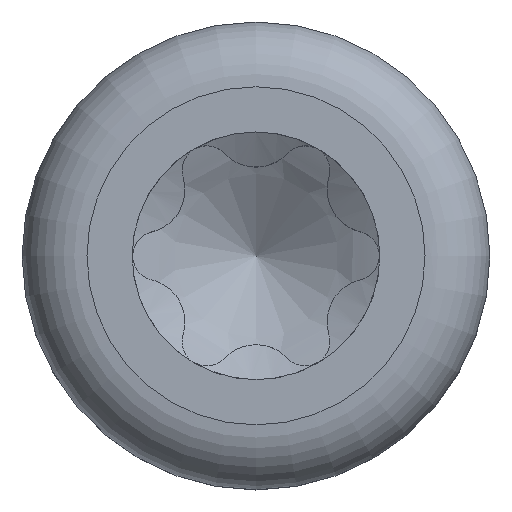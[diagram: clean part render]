
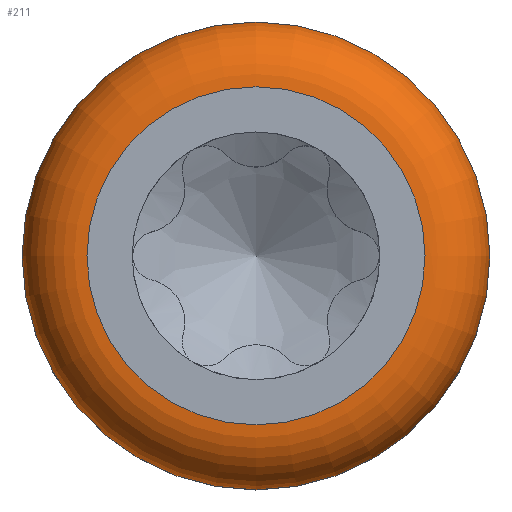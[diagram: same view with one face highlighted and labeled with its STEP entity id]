
A CAD part, top view. The second image highlights one B-rep face of the part: STEP entity #211.
In plain terms, the highlighted toroidal (fillet/blend) face has major radius 2.71 mm and minor radius 1.04 mm.
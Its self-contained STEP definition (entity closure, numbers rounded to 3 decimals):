
#174=TOROIDAL_SURFACE('',#1070,2.71,1.04);
#185=FACE_BOUND('',#352,.T.);
#186=FACE_BOUND('',#353,.T.);
#211=ADVANCED_FACE('',(#185,#186),#174,.T.);
#352=EDGE_LOOP('',(#480));
#353=EDGE_LOOP('',(#481));
#425=CIRCLE('',#1067,3.75);
#426=CIRCLE('',#1069,2.71);
#480=ORIENTED_EDGE('',*,*,#863,.F.);
#481=ORIENTED_EDGE('',*,*,#862,.T.);
#764=VERTEX_POINT('',#2732);
#765=VERTEX_POINT('',#2735);
#862=EDGE_CURVE('',#764,#764,#425,.T.);
#863=EDGE_CURVE('',#765,#765,#426,.T.);
#1067=AXIS2_PLACEMENT_3D('',#2731,#1125,#1126);
#1069=AXIS2_PLACEMENT_3D('',#2734,#1129,#1130);
#1070=AXIS2_PLACEMENT_3D('',#2736,#1131,#1132);
#1125=DIRECTION('',(0.,0.,1.));
#1126=DIRECTION('',(1.,0.,0.));
#1129=DIRECTION('',(0.,0.,1.));
#1130=DIRECTION('',(1.,0.,0.));
#1131=DIRECTION('',(0.,0.,1.));
#1132=DIRECTION('',(1.,0.,0.));
#2731=CARTESIAN_POINT('',(0.,0.,1.56));
#2732=CARTESIAN_POINT('',(3.75,0.,1.56));
#2734=CARTESIAN_POINT('',(0.,0.,2.6));
#2735=CARTESIAN_POINT('',(2.71,0.,2.6));
#2736=CARTESIAN_POINT('',(0.,0.,1.56));
